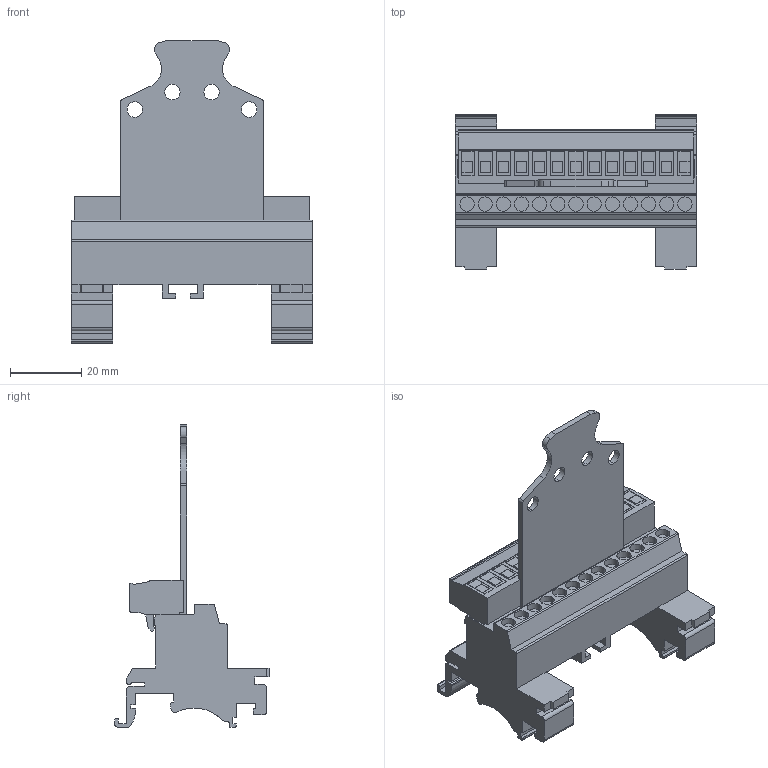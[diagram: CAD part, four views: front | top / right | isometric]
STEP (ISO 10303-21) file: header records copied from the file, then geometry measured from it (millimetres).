
FILE_DESCRIPTION (( 'STEP AP214' ), '1' );
FILE_NAME ('Ðîçåòêà è âèëêà äëÿ âòîðè÷íûõ öåïåé 2.513-OptiMatÂÀ57-ÓÕË3.STEP', '2023-05-03T13:12:47', ( '' ), ( '' ), 'SwSTEP 2.0', 'SolidWorks 2018', '' );
FILE_SCHEMA (( 'AUTOMOTIVE_DESIGN' ));
Length unit declared in the file: millimetre
Products named in the file (1): Ðîçåòêà è âèëêà äëÿ âòîðè÷íûõ öåïåé 2.513-OptiMatÂÀ57-ÓÕË3
Bounding box: 67.48 x 43.23 x 84.7 mm (x, y, z)
Volume: 42976.8 mm3; surface area: 20768.6 mm2
Topology: 2 solids, 2 shells, 676 faces, 1736 edges, 1156 vertices
Faces by surface type: plane 483, cylinder 193
Entity records: 27995 total; most frequent: CARTESIAN_POINT 3590, DIRECTION 3515, ORIENTED_EDGE 3472, EDGE_CURVE 1736, LINE 1297, VECTOR 1297, VERTEX_POINT 1156, AXIS2_PLACEMENT_3D 1109
